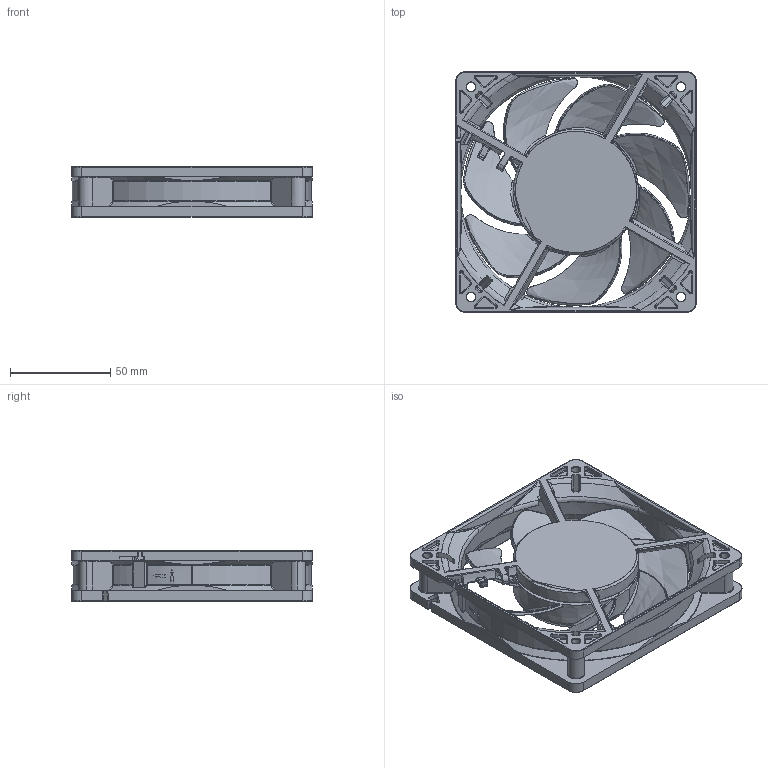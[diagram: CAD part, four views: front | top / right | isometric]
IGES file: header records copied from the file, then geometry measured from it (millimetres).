
Start section: SolidWorks IGES file using analytic representation for surfaces
Bounding box: 120 x 120 x 25.3 mm (x, y, z)
Surface area: 65032.6 mm2 (no closed solid volume)
Topology: 0 solids, 0 shells, 1732 faces, 13892 edges, 13687 vertices
Faces by surface type: bspline 960, revolution 772
